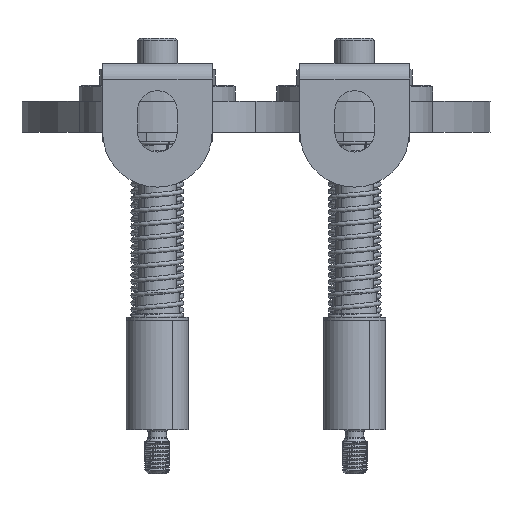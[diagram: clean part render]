
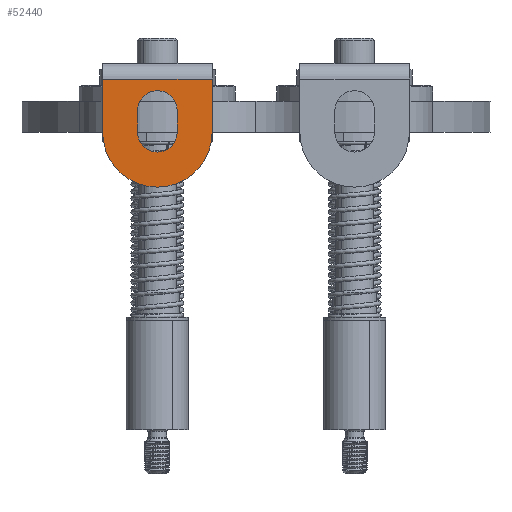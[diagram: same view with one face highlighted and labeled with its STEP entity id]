
A CAD part, left-side view. The second image highlights one B-rep face of the part: STEP entity #52440.
In plain terms, the highlighted planar face has unit normal (-1, 0, 0).
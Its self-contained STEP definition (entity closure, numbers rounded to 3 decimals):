
#175 = CIRCLE ( 'NONE', #1830, 6.3 ) ;
#397 = CARTESIAN_POINT ( 'NONE',  ( -181.5, 25.2, 7. ) ) ;
#906 = DIRECTION ( 'NONE',  ( 0., 0., 1. ) ) ;
#1431 = DIRECTION ( 'NONE',  ( -1., 0., 0. ) ) ;
#1830 = AXIS2_PLACEMENT_3D ( 'NONE', #36256, #20569, #20039 ) ;
#1875 = FACE_OUTER_BOUND ( 'NONE', #35346, .T. ) ;
#3099 = VECTOR ( 'NONE', #38824, 1000. ) ;
#3172 = LINE ( 'NONE', #27594, #7025 ) ;
#3313 = CARTESIAN_POINT ( 'NONE',  ( -181.5, 37.8, 7. ) ) ;
#3512 = AXIS2_PLACEMENT_3D ( 'NONE', #21863, #1431, #46308 ) ;
#4365 = AXIS2_PLACEMENT_3D ( 'NONE', #29312, #45526, #906 ) ;
#4374 = DIRECTION ( 'NONE',  ( 0., 0., -1. ) ) ;
#4405 = EDGE_CURVE ( 'NONE', #8557, #25000, #20364, .T. ) ;
#5186 = VERTEX_POINT ( 'NONE', #50867 ) ;
#5348 = DIRECTION ( 'NONE',  ( -1., 0., 0. ) ) ;
#5602 = DIRECTION ( 'NONE',  ( 0., 0., 1. ) ) ;
#5873 = CARTESIAN_POINT ( 'NONE',  ( -181.5, 37.8, 7. ) ) ;
#6919 = ORIENTED_EDGE ( 'NONE', *, *, #10339, .T. ) ;
#7025 = VECTOR ( 'NONE', #10625, 1000. ) ;
#7331 = CARTESIAN_POINT ( 'NONE',  ( -181.5, 37.8, 0. ) ) ;
#7807 = ORIENTED_EDGE ( 'NONE', *, *, #29511, .F. ) ;
#8557 = VERTEX_POINT ( 'NONE', #45663 ) ;
#9650 = LINE ( 'NONE', #33804, #45208 ) ;
#10339 = EDGE_CURVE ( 'NONE', #29217, #8557, #49962, .T. ) ;
#10625 = DIRECTION ( 'NONE',  ( 0., 1., 0. ) ) ;
#11012 = DIRECTION ( 'NONE',  ( 0., 0., 1. ) ) ;
#11461 = ORIENTED_EDGE ( 'NONE', *, *, #4405, .T. ) ;
#12619 = AXIS2_PLACEMENT_3D ( 'NONE', #25220, #29206, #41422 ) ;
#13493 = EDGE_CURVE ( 'NONE', #19622, #29217, #39951, .T. ) ;
#13636 = DIRECTION ( 'NONE',  ( 0., 0., 1. ) ) ;
#17057 = AXIS2_PLACEMENT_3D ( 'NONE', #35184, #39681, #11012 ) ;
#17814 = CARTESIAN_POINT ( 'NONE',  ( -181.5, 31.5, 0. ) ) ;
#18772 = EDGE_LOOP ( 'NONE', ( #7807, #30233, #19842, #33373, #22618 ) ) ;
#19024 = EDGE_CURVE ( 'NONE', #5186, #48591, #175, .T. ) ;
#19037 = EDGE_CURVE ( 'NONE', #48591, #21727, #24819, .T. ) ;
#19622 = VERTEX_POINT ( 'NONE', #24479 ) ;
#19842 = ORIENTED_EDGE ( 'NONE', *, *, #29383, .F. ) ;
#20039 = DIRECTION ( 'NONE',  ( 0., 0., 1. ) ) ;
#20364 = LINE ( 'NONE', #40297, #43404 ) ;
#20569 = DIRECTION ( 'NONE',  ( -1., 0., 0. ) ) ;
#20658 = CARTESIAN_POINT ( 'NONE',  ( -181.5, 25.2, 0. ) ) ;
#21727 = VERTEX_POINT ( 'NONE', #7331 ) ;
#21863 = CARTESIAN_POINT ( 'NONE',  ( -181.5, 31.5, 0. ) ) ;
#22104 = LINE ( 'NONE', #38307, #3099 ) ;
#22172 = VECTOR ( 'NONE', #4374, 1000. ) ;
#22618 = ORIENTED_EDGE ( 'NONE', *, *, #19024, .F. ) ;
#23828 = CIRCLE ( 'NONE', #4365, 6.3 ) ;
#24479 = CARTESIAN_POINT ( 'NONE',  ( -181.5, 49., 0. ) ) ;
#24819 = LINE ( 'NONE', #3313, #22172 ) ;
#25000 = VERTEX_POINT ( 'NONE', #28182 ) ;
#25220 = CARTESIAN_POINT ( 'NONE',  ( -181.5, 31.5, 0. ) ) ;
#26045 = ORIENTED_EDGE ( 'NONE', *, *, #39761, .T. ) ;
#26562 = FACE_BOUND ( 'NONE', #18772, .T. ) ;
#27594 = CARTESIAN_POINT ( 'NONE',  ( -181.5, 31.5, 17. ) ) ;
#28182 = CARTESIAN_POINT ( 'NONE',  ( -181.5, 14., 17. ) ) ;
#29206 = DIRECTION ( 'NONE',  ( -1., 0., 0. ) ) ;
#29217 = VERTEX_POINT ( 'NONE', #36770 ) ;
#29312 = CARTESIAN_POINT ( 'NONE',  ( -181.5, 31.5, 7. ) ) ;
#29383 = EDGE_CURVE ( 'NONE', #21727, #43050, #40843, .T. ) ;
#29511 = EDGE_CURVE ( 'NONE', #30248, #5186, #23828, .T. ) ;
#30233 = ORIENTED_EDGE ( 'NONE', *, *, #39259, .F. ) ;
#30248 = VERTEX_POINT ( 'NONE', #397 ) ;
#31403 = CARTESIAN_POINT ( 'NONE',  ( -181.5, 49., 17. ) ) ;
#32774 = ORIENTED_EDGE ( 'NONE', *, *, #51564, .T. ) ;
#33373 = ORIENTED_EDGE ( 'NONE', *, *, #19037, .F. ) ;
#33804 = CARTESIAN_POINT ( 'NONE',  ( -181.5, 25.2, 7. ) ) ;
#35184 = CARTESIAN_POINT ( 'NONE',  ( -181.5, 31.5, 0. ) ) ;
#35346 = EDGE_LOOP ( 'NONE', ( #11461, #26045, #32774, #41790, #6919 ) ) ;
#36256 = CARTESIAN_POINT ( 'NONE',  ( -181.5, 31.5, 7. ) ) ;
#36770 = CARTESIAN_POINT ( 'NONE',  ( -181.5, 31.5, -17.5 ) ) ;
#38307 = CARTESIAN_POINT ( 'NONE',  ( -181.5, 49., 0. ) ) ;
#38824 = DIRECTION ( 'NONE',  ( 0., 0., -1. ) ) ;
#39259 = EDGE_CURVE ( 'NONE', #43050, #30248, #9650, .T. ) ;
#39681 = DIRECTION ( 'NONE',  ( -1., 0., 0. ) ) ;
#39761 = EDGE_CURVE ( 'NONE', #25000, #45827, #3172, .T. ) ;
#39951 = CIRCLE ( 'NONE', #17057, 17.5 ) ;
#40297 = CARTESIAN_POINT ( 'NONE',  ( -181.5, 14., 20. ) ) ;
#40843 = CIRCLE ( 'NONE', #3512, 6.3 ) ;
#41422 = DIRECTION ( 'NONE',  ( 0., 0., 1. ) ) ;
#41790 = ORIENTED_EDGE ( 'NONE', *, *, #13493, .T. ) ;
#41996 = PLANE ( 'NONE',  #49790 ) ;
#43050 = VERTEX_POINT ( 'NONE', #20658 ) ;
#43404 = VECTOR ( 'NONE', #48266, 1000. ) ;
#45208 = VECTOR ( 'NONE', #13636, 1000. ) ;
#45526 = DIRECTION ( 'NONE',  ( -1., 0., 0. ) ) ;
#45663 = CARTESIAN_POINT ( 'NONE',  ( -181.5, 14., 0. ) ) ;
#45827 = VERTEX_POINT ( 'NONE', #31403 ) ;
#46308 = DIRECTION ( 'NONE',  ( 0., 0., 1. ) ) ;
#48266 = DIRECTION ( 'NONE',  ( 0., 0., 1. ) ) ;
#48591 = VERTEX_POINT ( 'NONE', #5873 ) ;
#49790 = AXIS2_PLACEMENT_3D ( 'NONE', #17814, #5348, #5602 ) ;
#49962 = CIRCLE ( 'NONE', #12619, 17.5 ) ;
#50867 = CARTESIAN_POINT ( 'NONE',  ( -181.5, 31.5, 13.3 ) ) ;
#51564 = EDGE_CURVE ( 'NONE', #45827, #19622, #22104, .T. ) ;
#52440 = ADVANCED_FACE ( 'NONE', ( #26562, #1875 ), #41996, .T. ) ;
